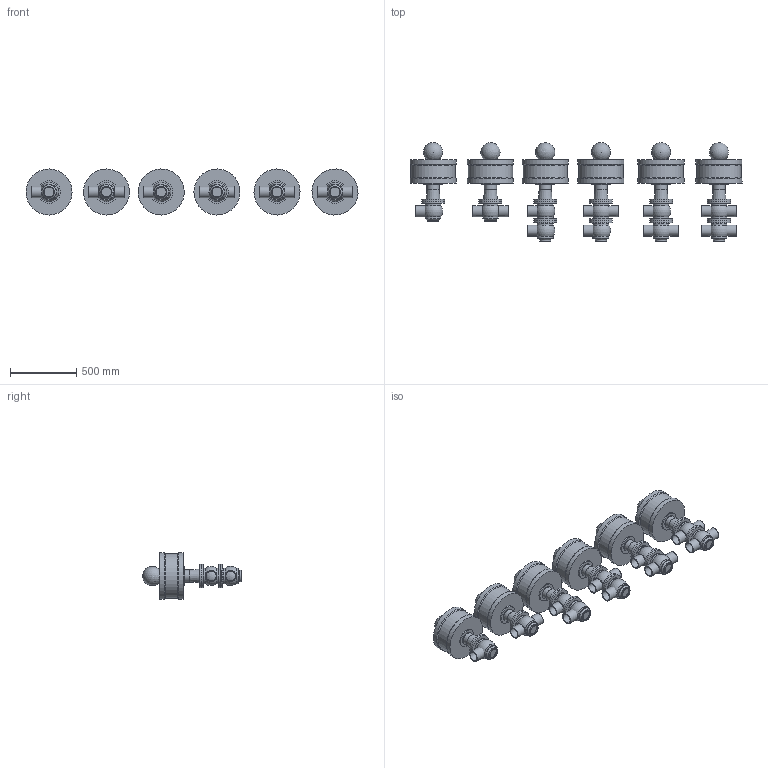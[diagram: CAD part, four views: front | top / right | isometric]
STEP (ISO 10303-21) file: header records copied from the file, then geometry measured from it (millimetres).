
FILE_DESCRIPTION(/* description */ (''),/* implementation_level */ '2;1');
FILE_NAME(/* name */ 'C:\Users\marz-m\Desktop\PDF\BBZQ-DN80-CIL.320.stp',/* time_stamp */ '2018-04-13T15:24:23+02:00',/* author */ ('marz-m'),/* organization */ (''),/* preprocessor_version */ 'ST-DEVELOPER v17',/* originating_system */ 'Autodesk Inventor 2018',/* authorisation */ '');
FILE_SCHEMA (('AUTOMOTIVE_DESIGN { 1 0 10303 214 3 1 1 }'));
Length unit declared in the file: millimetre
Products named in the file (8): BBZQ-DN80-CIL.320; assemblaggio dn80 per cil 207-360; CILINDRO 320; SAGOMA-GIOTTO-; COR-INF-L-BBZQ-DN080-SALD; COR-SUP-L-BBZQ-DN80; COR-SUP-T-BBZQ-DN80; COR-INF-T-BBZQ-DN080X3-SALD
Assembly tree (28 placements, depth 2):
  BBZQ-DN80-CIL.320
    assemblaggio dn80 per cil 207-360  x6
    COR-INF-L-BBZQ-DN080-SALD  x3
    COR-INF-T-BBZQ-DN080X3-SALD  x3
    COR-SUP-L-BBZQ-DN80  x2
    COR-SUP-T-BBZQ-DN80  x2
    CILINDRO 320  x6
    SAGOMA-GIOTTO-  x6
Bounding box: 2508.1 x 744.47 x 348 mm (x, y, z)
Volume: 137655354.7 mm3; surface area: 5198115.5 mm2
Topology: 31 solids, 31 shells, 331 faces, 839 edges, 626 vertices
Faces by surface type: cylinder 124, plane 118, sphere 33, torus 32, cone 24
Full cylindrical faces by diameter (mm): 25.4 x6, 69.8 x6, 75 x21, 85 x21, 92 x6, 120 x20, 141 x6, 174 x20, 334 x6, 348 x12
Entity records: 3737 total; most frequent: DIRECTION 707, CARTESIAN_POINT 662, ORIENTED_EDGE 500, AXIS2_PLACEMENT_3D 332, EDGE_CURVE 250, CIRCLE 197, VERTEX_POINT 187, EDGE_LOOP 121
